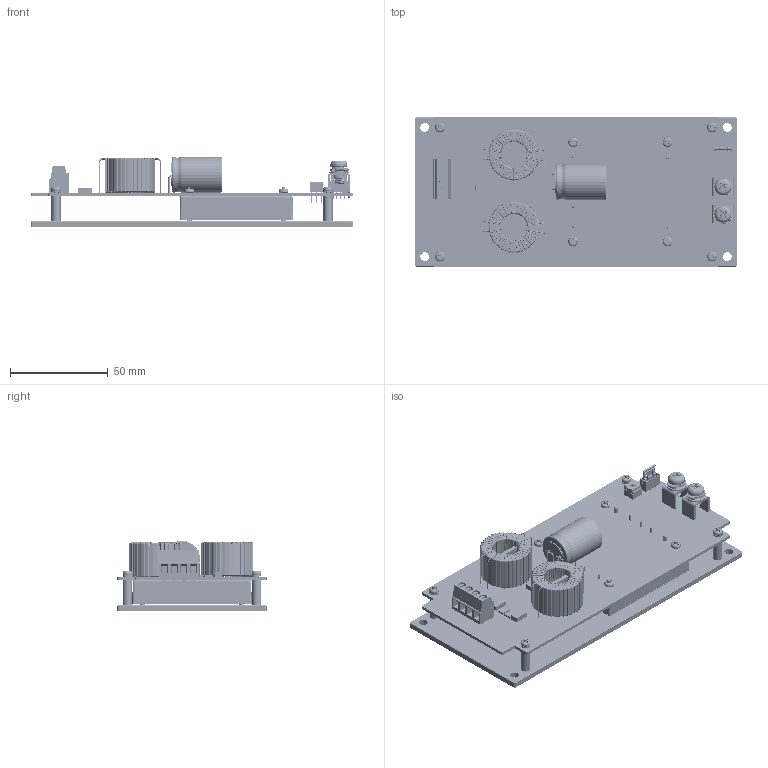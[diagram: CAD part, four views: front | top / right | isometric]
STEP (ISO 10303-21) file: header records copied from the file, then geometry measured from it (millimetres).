
FILE_DESCRIPTION (( 'STEP AP203' ), '1' );
FILE_NAME ('CHB300W-110S CMFC 12,24,28,48V成品圖2025.01.02.STEP', '2025-01-03T07:36:34', ( '' ), ( '' ), 'SwSTEP 2.0', 'SolidWorks 2020', '' );
FILE_SCHEMA (( 'CONFIG_CONTROL_DESIGN' ));
Products named in the file (1): CHB300W-110S CMFC 12,24,28,48V成品圖2025.01.02
Bounding box: 165 x 76.2 x 36 mm (x, y, z)
Volume: 125712.5 mm3; surface area: 88430.1 mm2
Topology: 21 solids, 43 shells, 2919 faces, 7419 edges, 4704 vertices
Faces by surface type: plane 1369, cylinder 733, torus 591, bspline 129, cone 89, sphere 8
Full cylindrical faces by diameter (mm): 0.45 x24, 0.8 x4, 1 x13, 1.2 x5, 1.5 x2, 2 x5, 2.2 x8, 3.2 x7, 3.239 x3, 3.25 x1, 3.264 x1, 3.8 x4, 4 x9, 4.2 x4, 4.3 x6, 4.5 x4, 4.6 x4, 4.7 x8, 5 x14, 5.3 x2, 5.5 x2, 10 x2, 12 x1, 12.8 x1, 13 x1, 14 x2, 18.3 x2
Entity records: 140178 total; most frequent: CARTESIAN_POINT 74079, ORIENTED_EDGE 14080, DIRECTION 12752, EDGE_CURVE 7040, AXIS2_PLACEMENT_3D 4734, VERTEX_POINT 4583, EDGE_LOOP 3435, VECTOR 3284
